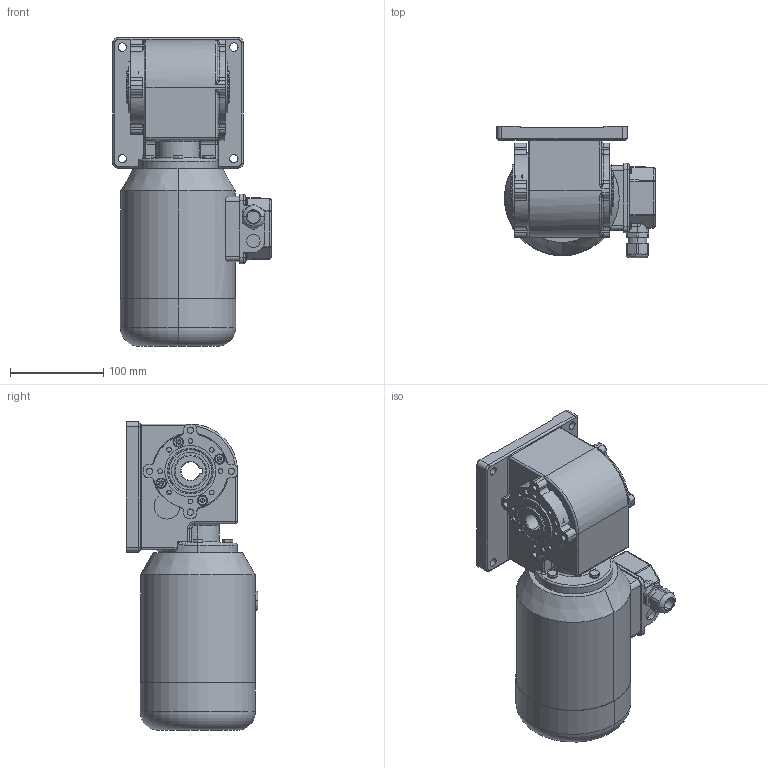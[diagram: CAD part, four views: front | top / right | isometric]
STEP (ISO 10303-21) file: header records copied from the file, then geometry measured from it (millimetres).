
FILE_DESCRIPTION (( 'STEP AP214' ), '1' );
FILE_NAME ('SN13H_180W_Drehstrom-Motor_D.STEP', '2022-03-15T15:36:38', ( '' ), ( '' ), 'SwSTEP 2.0', 'SolidWorks 2019', '' );
FILE_SCHEMA (( 'AUTOMOTIVE_DESIGN' ));
Length unit declared in the file: millimetre
Products named in the file (13): NBR_WDR_30x47x7; 13-G-004_3D-Export; SN13H_180W_Drehstrom-Motor_D; 13FH-F-001_3D-Export; 13H-D-001_3D_Export; K_28x9.0; Kupferscheibe Ø6x10x1 DIN7603 A; socket set screw flat point_iso_ISO 4026 - M6 x 30-C; 03-M-269 I 180W_1400Upm; socket head cap screw_iso_ISO 4762 M6 x 16 - 16C; SN13H_3D_Export; 13H-W-003_3D-Export; hex screw gradeab_iso_ISO 4017 - M6 x 20-C
Assembly tree (27 placements, depth 3):
  SN13H_180W_Drehstrom-Motor_D
    SN13H_3D_Export
      13-G-004_3D-Export
      13H-D-001_3D_Export
      13FH-F-001_3D-Export
      K_28x9.0
      13H-W-003_3D-Export
      NBR_WDR_30x47x7  x2
      Kupferscheibe Ø6x10x1 DIN7603 A  x4
      hex screw gradeab_iso_ISO 4017 - M6 x 20-C  x3
      socket set screw flat point_iso_ISO 4026 - M6 x 30-C
      socket head cap screw_iso_ISO 4762 M6 x 16 - 16C  x10
    03-M-269 I 180W_1400Upm
Bounding box: 170 x 141.5 x 331.5 mm (x, y, z)
Volume: 3598201.4 mm3; surface area: 328043.2 mm2
Topology: 28 solids, 28 shells, 1332 faces, 3248 edges, 1980 vertices
Faces by surface type: plane 461, cylinder 433, cone 210, bspline 119, torus 104, sphere 5
Entity records: 34314 total; most frequent: CARTESIAN_POINT 9759, ORIENTED_EDGE 4880, DIRECTION 4749, EDGE_CURVE 2440, AXIS2_PLACEMENT_3D 1859, VERTEX_POINT 1553, EDGE_LOOP 1125, VECTOR 1031
